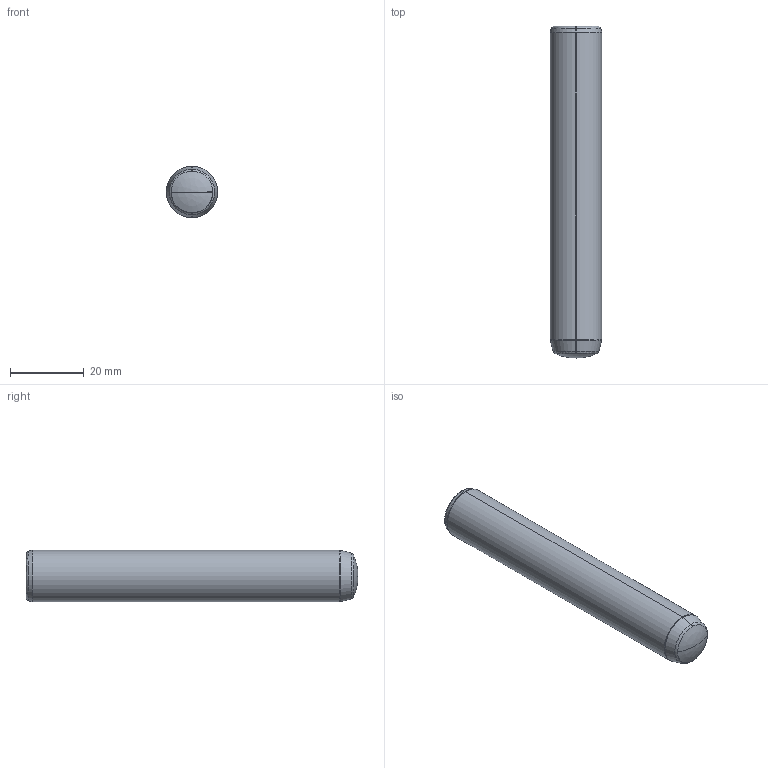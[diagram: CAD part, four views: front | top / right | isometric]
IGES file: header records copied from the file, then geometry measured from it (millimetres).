
Start section: SolidWorks IGES file using analytic representation for surfaces
Global section: file name: D:\Cleonir_arquivos\MT_15_07\Pinos Guia DIN 7979 ISO 8735 com rosca\PG714090.igs; native system: SolidWorks 2013; preprocessor: SolidWorks 2013; author: Cleonir; date: 130730.171823; units: millimetre
Bounding box: 14 x 90 x 14 mm (x, y, z)
Surface area: 4611.1 mm2 (no closed solid volume)
Topology: 0 solids, 0 shells, 286 faces, 2076 edges, 2073 vertices
Faces by surface type: bspline 264, revolution 22
